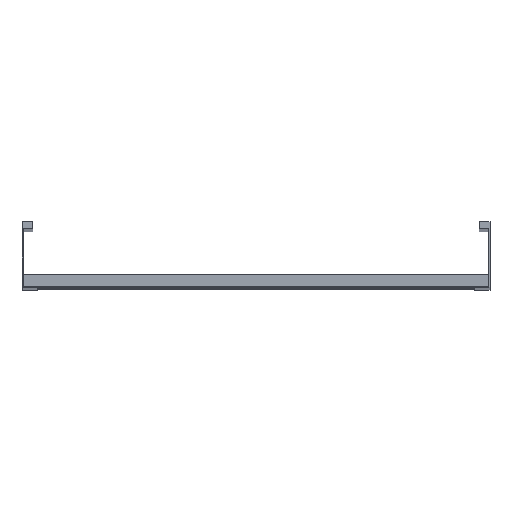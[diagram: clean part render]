
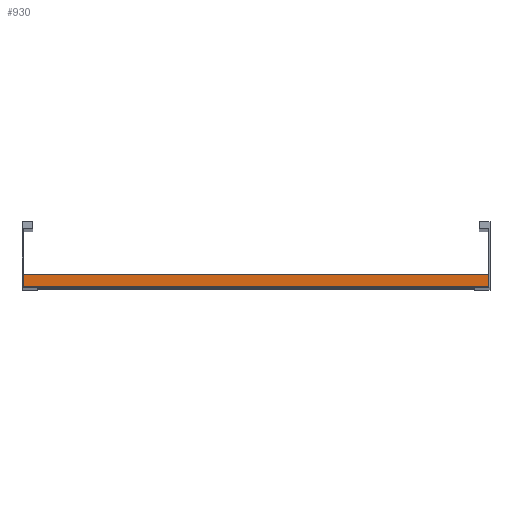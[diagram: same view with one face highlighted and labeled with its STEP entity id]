
A CAD part, top view. The second image highlights one B-rep face of the part: STEP entity #930.
In plain terms, the highlighted planar face has unit normal (0, 0, 1).
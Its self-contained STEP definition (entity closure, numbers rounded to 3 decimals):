
#9 = LINE ( 'NONE', #1487, #1592 ) ;
#87 = LINE ( 'NONE', #96, #1359 ) ;
#96 = CARTESIAN_POINT ( 'NONE',  ( 398., 20., 20.25 ) ) ;
#111 = EDGE_CURVE ( 'NONE', #1623, #945, #87, .T. ) ;
#187 = DIRECTION ( 'NONE',  ( -1., 0., 0. ) ) ;
#199 = CARTESIAN_POINT ( 'NONE',  ( -398., 20., 20.25 ) ) ;
#261 = ORIENTED_EDGE ( 'NONE', *, *, #1559, .T. ) ;
#362 = ORIENTED_EDGE ( 'NONE', *, *, #111, .F. ) ;
#399 = FACE_OUTER_BOUND ( 'NONE', #1467, .T. ) ;
#492 = CARTESIAN_POINT ( 'NONE',  ( -398., 20., 20.25 ) ) ;
#496 = LINE ( 'NONE', #1195, #1029 ) ;
#497 = VERTEX_POINT ( 'NONE', #492 ) ;
#499 = CARTESIAN_POINT ( 'NONE',  ( 398., 0., 20.25 ) ) ;
#546 = AXIS2_PLACEMENT_3D ( 'NONE', #1705, #1474, #1700 ) ;
#563 = DIRECTION ( 'NONE',  ( -1., 0., 0. ) ) ;
#581 = LINE ( 'NONE', #199, #1207 ) ;
#627 = CARTESIAN_POINT ( 'NONE',  ( -398., 0., 20.25 ) ) ;
#738 = DIRECTION ( 'NONE',  ( 0., -1., 0. ) ) ;
#930 = ADVANCED_FACE ( 'NONE', ( #399 ), #1347, .F. ) ;
#945 = VERTEX_POINT ( 'NONE', #499 ) ;
#1029 = VECTOR ( 'NONE', #187, 1000. ) ;
#1153 = ORIENTED_EDGE ( 'NONE', *, *, #1670, .T. ) ;
#1195 = CARTESIAN_POINT ( 'NONE',  ( 398., 0., 20.25 ) ) ;
#1207 = VECTOR ( 'NONE', #738, 1000. ) ;
#1235 = ORIENTED_EDGE ( 'NONE', *, *, #1439, .F. ) ;
#1347 = PLANE ( 'NONE',  #546 ) ;
#1359 = VECTOR ( 'NONE', #1697, 1000. ) ;
#1439 = EDGE_CURVE ( 'NONE', #945, #1459, #496, .T. ) ;
#1459 = VERTEX_POINT ( 'NONE', #627 ) ;
#1467 = EDGE_LOOP ( 'NONE', ( #1153, #1235, #362, #261 ) ) ;
#1474 = DIRECTION ( 'NONE',  ( 0., 0., -1. ) ) ;
#1487 = CARTESIAN_POINT ( 'NONE',  ( 398., 20., 20.25 ) ) ;
#1544 = CARTESIAN_POINT ( 'NONE',  ( 398., 20., 20.25 ) ) ;
#1559 = EDGE_CURVE ( 'NONE', #1623, #497, #9, .T. ) ;
#1592 = VECTOR ( 'NONE', #563, 1000. ) ;
#1623 = VERTEX_POINT ( 'NONE', #1544 ) ;
#1670 = EDGE_CURVE ( 'NONE', #497, #1459, #581, .T. ) ;
#1697 = DIRECTION ( 'NONE',  ( 0., -1., 0. ) ) ;
#1700 = DIRECTION ( 'NONE',  ( 0., 1., 0. ) ) ;
#1705 = CARTESIAN_POINT ( 'NONE',  ( 398., 20., 20.25 ) ) ;
